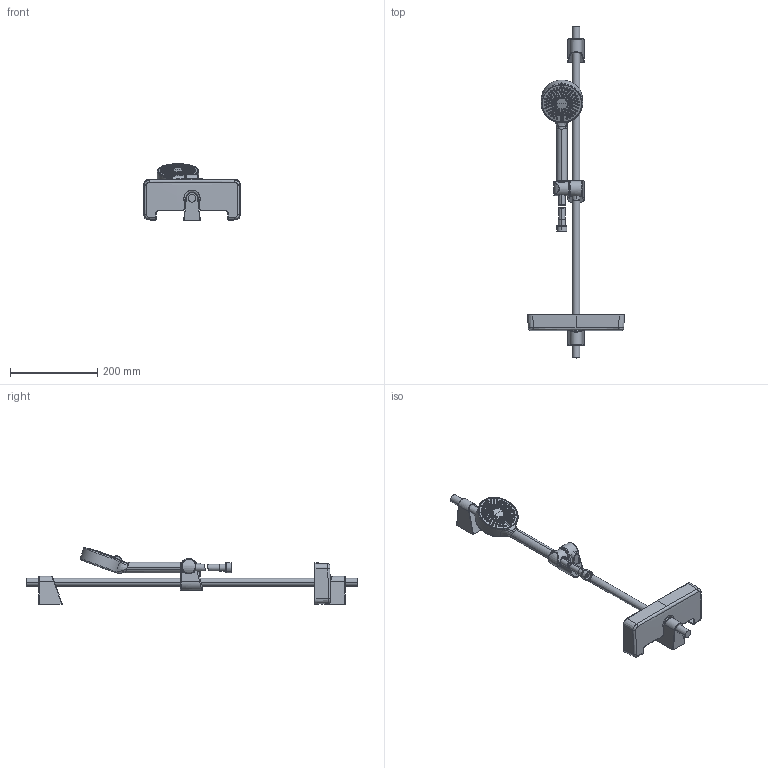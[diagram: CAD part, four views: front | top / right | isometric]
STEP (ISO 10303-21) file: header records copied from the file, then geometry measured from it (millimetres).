
FILE_DESCRIPTION (( 'STEP AP203' ), '1' );
FILE_NAME ('544(2016)+44780133.STEP', '2022-02-01T11:55:55', ( '' ), ( '' ), 'SwSTEP 2.0', 'SolidWorks 2016', '' );
FILE_SCHEMA (( 'CONFIG_CONTROL_DESIGN' ));
Products named in the file (1): 544(2016)+44780133
Bounding box: 221.91 x 760 x 129.64 mm (x, y, z)
Surface area: 251421.2 mm2 (no closed solid volume)
Topology: 0 solids, 17 shells, 2970 faces, 7413 edges, 4657 vertices
Faces by surface type: cone 960, bspline 918, plane 456, torus 340, cylinder 241, sphere 55
Entity records: 172529 total; most frequent: CARTESIAN_POINT 108134, ORIENTED_EDGE 14568, DIRECTION 11827, EDGE_CURVE 7393, AXIS2_PLACEMENT_3D 5195, VERTEX_POINT 4657, EDGE_LOOP 3507, CIRCLE 3142
